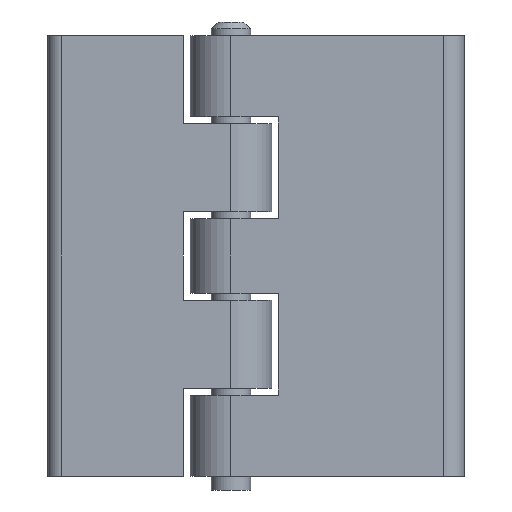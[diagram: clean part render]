
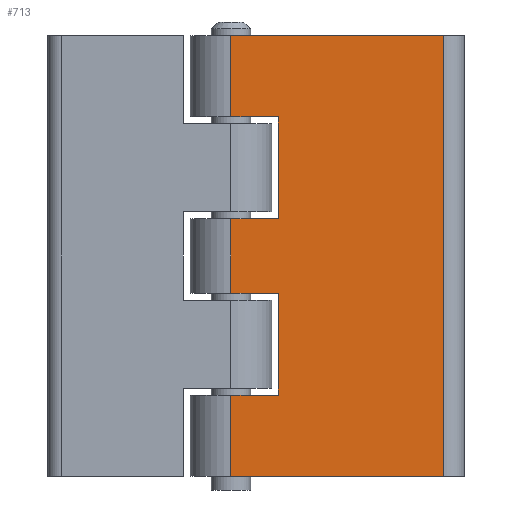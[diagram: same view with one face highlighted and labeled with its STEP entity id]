
A CAD part, front view. The second image highlights one B-rep face of the part: STEP entity #713.
In plain terms, the highlighted planar face has unit normal (0, -1, 0).
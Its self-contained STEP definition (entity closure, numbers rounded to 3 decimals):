
#24 = LINE ( 'NONE', #734, #1086 ) ;
#37 = VERTEX_POINT ( 'NONE', #457 ) ;
#50 = CARTESIAN_POINT ( 'NONE',  ( 30.979, 1.605, -32.5 ) ) ;
#55 = DIRECTION ( 'NONE',  ( 0., 0., 1. ) ) ;
#84 = LINE ( 'NONE', #1680, #2597 ) ;
#105 = VERTEX_POINT ( 'NONE', #1788 ) ;
#133 = ORIENTED_EDGE ( 'NONE', *, *, #775, .T. ) ;
#153 = EDGE_CURVE ( 'NONE', #1606, #105, #24, .T. ) ;
#198 = VECTOR ( 'NONE', #1582, 1000. ) ;
#227 = ORIENTED_EDGE ( 'NONE', *, *, #153, .F. ) ;
#231 = ORIENTED_EDGE ( 'NONE', *, *, #2948, .F. ) ;
#240 = DIRECTION ( 'NONE',  ( 0., 0., 1. ) ) ;
#250 = LINE ( 'NONE', #1860, #742 ) ;
#264 = VECTOR ( 'NONE', #1548, 1000. ) ;
#294 = CARTESIAN_POINT ( 'NONE',  ( -7.421, 1.605, 5.5 ) ) ;
#321 = DIRECTION ( 'NONE',  ( 1., 0., 0. ) ) ;
#367 = VECTOR ( 'NONE', #1618, 1000. ) ;
#403 = CARTESIAN_POINT ( 'NONE',  ( -7.421, 1.605, -20.5 ) ) ;
#408 = DIRECTION ( 'NONE',  ( 1., 0., 0. ) ) ;
#457 = CARTESIAN_POINT ( 'NONE',  ( 6.579, 1.605, -20.5 ) ) ;
#460 = CARTESIAN_POINT ( 'NONE',  ( 6.579, 1.605, -5.5 ) ) ;
#584 = VECTOR ( 'NONE', #408, 1000. ) ;
#685 = VERTEX_POINT ( 'NONE', #1250 ) ;
#696 = EDGE_CURVE ( 'NONE', #824, #2225, #250, .T. ) ;
#713 = ADVANCED_FACE ( 'NONE', ( #756 ), #1910, .T. ) ;
#734 = CARTESIAN_POINT ( 'NONE',  ( -0.421, 1.605, -82.524 ) ) ;
#742 = VECTOR ( 'NONE', #1459, 1000. ) ;
#756 = FACE_OUTER_BOUND ( 'NONE', #2665, .T. ) ;
#768 = ORIENTED_EDGE ( 'NONE', *, *, #1114, .F. ) ;
#775 = EDGE_CURVE ( 'NONE', #1078, #37, #1158, .T. ) ;
#824 = VERTEX_POINT ( 'NONE', #994 ) ;
#835 = DIRECTION ( 'NONE',  ( -1., 0., 0. ) ) ;
#839 = LINE ( 'NONE', #1019, #1754 ) ;
#956 = DIRECTION ( 'NONE',  ( 0., -1., 0. ) ) ;
#994 = CARTESIAN_POINT ( 'NONE',  ( -0.421, 1.605, -32.5 ) ) ;
#1006 = VERTEX_POINT ( 'NONE', #1116 ) ;
#1013 = VECTOR ( 'NONE', #240, 1000. ) ;
#1014 = CARTESIAN_POINT ( 'NONE',  ( -0.421, 1.605, 32.5 ) ) ;
#1019 = CARTESIAN_POINT ( 'NONE',  ( -7.421, 1.605, -5.5 ) ) ;
#1033 = VECTOR ( 'NONE', #1796, 1000. ) ;
#1078 = VERTEX_POINT ( 'NONE', #460 ) ;
#1079 = EDGE_CURVE ( 'NONE', #2300, #2101, #2901, .T. ) ;
#1086 = VECTOR ( 'NONE', #55, 1000. ) ;
#1114 = EDGE_CURVE ( 'NONE', #2225, #37, #1791, .T. ) ;
#1116 = CARTESIAN_POINT ( 'NONE',  ( -0.421, 1.605, 20.5 ) ) ;
#1158 = LINE ( 'NONE', #1894, #367 ) ;
#1159 = ORIENTED_EDGE ( 'NONE', *, *, #2610, .F. ) ;
#1161 = LINE ( 'NONE', #1350, #1013 ) ;
#1178 = CARTESIAN_POINT ( 'NONE',  ( 6.579, 1.605, 20.5 ) ) ;
#1210 = CARTESIAN_POINT ( 'NONE',  ( 30.979, 1.605, 32.5 ) ) ;
#1233 = ORIENTED_EDGE ( 'NONE', *, *, #1079, .T. ) ;
#1250 = CARTESIAN_POINT ( 'NONE',  ( 6.579, 1.605, 5.5 ) ) ;
#1336 = CARTESIAN_POINT ( 'NONE',  ( 30.979, 1.605, -82.524 ) ) ;
#1350 = CARTESIAN_POINT ( 'NONE',  ( -0.421, 1.605, -82.524 ) ) ;
#1394 = ORIENTED_EDGE ( 'NONE', *, *, #1946, .T. ) ;
#1459 = DIRECTION ( 'NONE',  ( 0., 0., 1. ) ) ;
#1527 = ORIENTED_EDGE ( 'NONE', *, *, #696, .F. ) ;
#1541 = LINE ( 'NONE', #2927, #1033 ) ;
#1548 = DIRECTION ( 'NONE',  ( 0., 0., 1. ) ) ;
#1582 = DIRECTION ( 'NONE',  ( 0., 0., -1. ) ) ;
#1606 = VERTEX_POINT ( 'NONE', #1678 ) ;
#1618 = DIRECTION ( 'NONE',  ( 0., 0., -1. ) ) ;
#1678 = CARTESIAN_POINT ( 'NONE',  ( -0.421, 1.605, -5.5 ) ) ;
#1680 = CARTESIAN_POINT ( 'NONE',  ( -7.421, 1.605, 20.5 ) ) ;
#1754 = VECTOR ( 'NONE', #2203, 1000. ) ;
#1788 = CARTESIAN_POINT ( 'NONE',  ( -0.421, 1.605, 5.5 ) ) ;
#1791 = LINE ( 'NONE', #403, #2181 ) ;
#1796 = DIRECTION ( 'NONE',  ( 1., 0., 0. ) ) ;
#1815 = EDGE_CURVE ( 'NONE', #105, #685, #2342, .T. ) ;
#1844 = EDGE_CURVE ( 'NONE', #2092, #2101, #1541, .T. ) ;
#1860 = CARTESIAN_POINT ( 'NONE',  ( -0.421, 1.605, -82.524 ) ) ;
#1894 = CARTESIAN_POINT ( 'NONE',  ( 6.579, 1.605, -5.5 ) ) ;
#1910 = PLANE ( 'NONE',  #2699 ) ;
#1942 = VECTOR ( 'NONE', #835, 1000. ) ;
#1946 = EDGE_CURVE ( 'NONE', #1606, #1078, #839, .T. ) ;
#1968 = LINE ( 'NONE', #2873, #1942 ) ;
#1999 = ORIENTED_EDGE ( 'NONE', *, *, #1844, .F. ) ;
#2075 = VERTEX_POINT ( 'NONE', #2492 ) ;
#2081 = ORIENTED_EDGE ( 'NONE', *, *, #2201, .T. ) ;
#2092 = VERTEX_POINT ( 'NONE', #1014 ) ;
#2098 = EDGE_CURVE ( 'NONE', #1006, #2075, #84, .T. ) ;
#2101 = VERTEX_POINT ( 'NONE', #1210 ) ;
#2181 = VECTOR ( 'NONE', #2281, 1000. ) ;
#2194 = ORIENTED_EDGE ( 'NONE', *, *, #1815, .F. ) ;
#2201 = EDGE_CURVE ( 'NONE', #2075, #685, #2705, .T. ) ;
#2203 = DIRECTION ( 'NONE',  ( 1., 0., 0. ) ) ;
#2225 = VERTEX_POINT ( 'NONE', #2718 ) ;
#2281 = DIRECTION ( 'NONE',  ( 1., 0., 0. ) ) ;
#2297 = CARTESIAN_POINT ( 'NONE',  ( 33.979, 1.605, -82.524 ) ) ;
#2300 = VERTEX_POINT ( 'NONE', #50 ) ;
#2342 = LINE ( 'NONE', #294, #584 ) ;
#2345 = DIRECTION ( 'NONE',  ( 0., 0., -1. ) ) ;
#2492 = CARTESIAN_POINT ( 'NONE',  ( 6.579, 1.605, 20.5 ) ) ;
#2597 = VECTOR ( 'NONE', #321, 1000. ) ;
#2610 = EDGE_CURVE ( 'NONE', #1006, #2092, #1161, .T. ) ;
#2665 = EDGE_LOOP ( 'NONE', ( #231, #1233, #1999, #1159, #2856, #2081, #2194, #227, #1394, #133, #768, #1527 ) ) ;
#2699 = AXIS2_PLACEMENT_3D ( 'NONE', #2297, #956, #2345 ) ;
#2705 = LINE ( 'NONE', #1178, #198 ) ;
#2718 = CARTESIAN_POINT ( 'NONE',  ( -0.421, 1.605, -20.5 ) ) ;
#2856 = ORIENTED_EDGE ( 'NONE', *, *, #2098, .T. ) ;
#2873 = CARTESIAN_POINT ( 'NONE',  ( 33.979, 1.605, -32.5 ) ) ;
#2901 = LINE ( 'NONE', #1336, #264 ) ;
#2927 = CARTESIAN_POINT ( 'NONE',  ( 33.979, 1.605, 32.5 ) ) ;
#2948 = EDGE_CURVE ( 'NONE', #2300, #824, #1968, .T. ) ;
